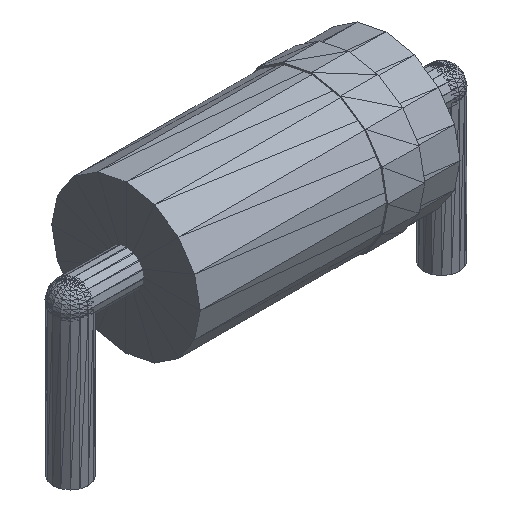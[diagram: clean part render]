
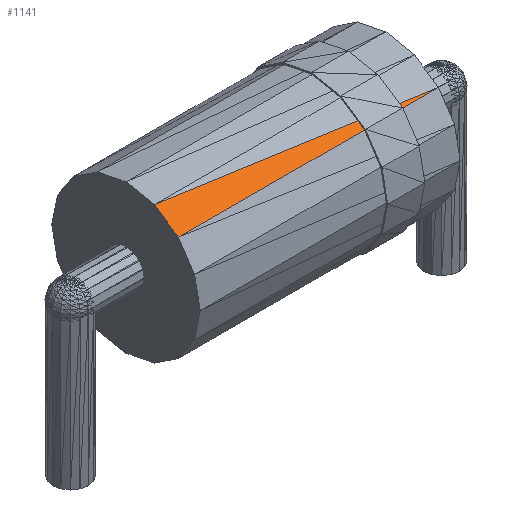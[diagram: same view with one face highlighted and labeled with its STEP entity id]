
A CAD part, isometric view. The second image highlights one B-rep face of the part: STEP entity #1141.
In plain terms, the highlighted planar face has unit normal (0, -0.556, 0.831).
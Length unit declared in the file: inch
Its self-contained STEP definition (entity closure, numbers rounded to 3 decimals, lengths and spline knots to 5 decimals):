
#283=CARTESIAN_POINT('',(0.175,-0.0708,0.17562));
#284=VERTEX_POINT('',#283);
#652=CARTESIAN_POINT('',(-0.175,-0.07067,0.17575));
#653=VERTEX_POINT('',#652);
#675=CARTESIAN_POINT('',(-0.17498,-0.03824,0.19744));
#676=VERTEX_POINT('',#675);
#684=CARTESIAN_POINT('',(-0.175,-0.07067,0.17575));
#685=DIRECTION('',(0.,0.831,0.556));
#686=VECTOR('',#685,0.03902);
#687=LINE('',#684,#686);
#688=EDGE_CURVE('',#653,#676,#687,.T.);
#1117=CARTESIAN_POINT('',(0.175,-0.0708,0.17562));
#1118=DIRECTION('',(-1.,0.,0.));
#1119=VECTOR('',#1118,0.35);
#1120=LINE('',#1117,#1119);
#1121=EDGE_CURVE('',#284,#653,#1120,.T.);
#1126=CARTESIAN_POINT('',(0.175,-0.0708,0.17562));
#1127=DIRECTION('',(0.,-0.556,0.831));
#1128=DIRECTION('',(1.,0.,0.));
#1129=AXIS2_PLACEMENT_3D('',#1126,#1127,#1128);
#1130=PLANE('',#1129);
#1131=CARTESIAN_POINT('',(0.175,-0.0708,0.17562));
#1132=DIRECTION('',(-0.994,0.092,0.062));
#1133=VECTOR('',#1132,0.35217);
#1134=LINE('',#1131,#1133);
#1135=EDGE_CURVE('',#284,#676,#1134,.T.);
#1136=ORIENTED_EDGE('',*,*,#1135,.T.);
#1137=ORIENTED_EDGE('',*,*,#688,.F.);
#1138=ORIENTED_EDGE('',*,*,#1121,.F.);
#1139=EDGE_LOOP('',(#1136,#1137,#1138));
#1140=FACE_BOUND('',#1139,.T.);
#1141=ADVANCED_FACE('',(#1140),#1130,.T.);
